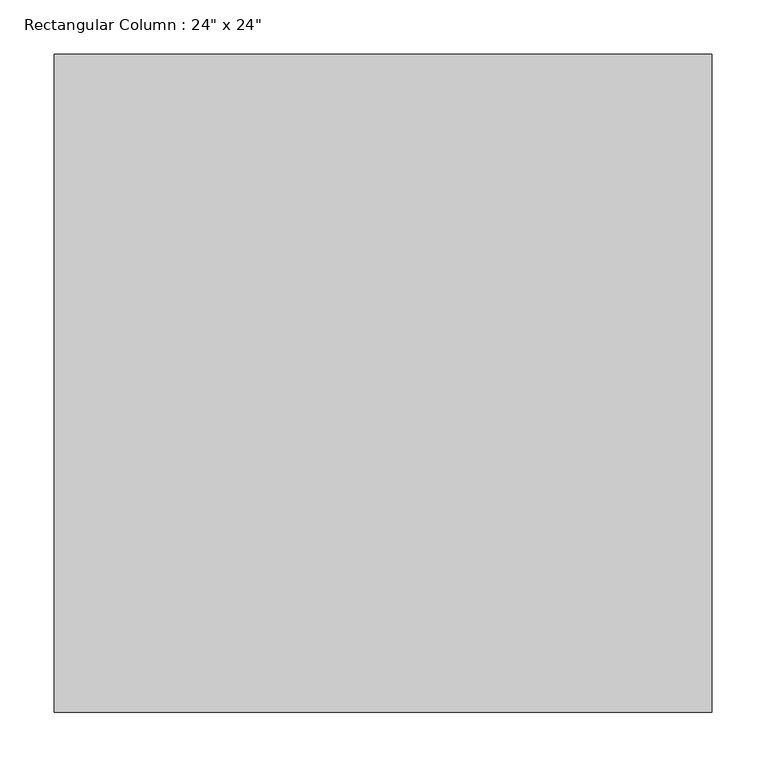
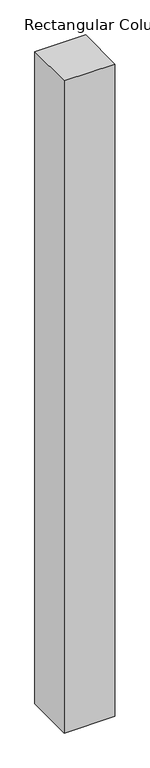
"""IFC4 building model written with IfcOpenShell, lengths in millimetres: column geometry."""

from ifc_helpers import new_model, si_unit, origin, origin_with_axes, place, context, project, spatial, polyline, outline, extrude, source, transform, mapped, element, save


def column_f8a5f9a6(model_context):
    return source(origin(), model_context, "Body", "SweptSolid", [
        extrude(outline(polyline([(304.8, -304.8), (-304.8, -304.8), (-304.8, 304.8), (304.8, 304.8), (304.8, -304.8)])), origin_with_axes(), (0.0, 0.0, 1.0), 8280.4),
    ])


if __name__ == "__main__":
    model = new_model("IFC4")
    model_context = context("Model", 3, world=origin())
    ifc_project = project(units=[si_unit("LENGTHUNIT", "METRE", prefix="MILLI")], contexts=[model_context])
    site = spatial("IfcSite", under=ifc_project)
    building = spatial("IfcBuilding", under=site)
    placement = place(None, origin())
    column_shape = column_f8a5f9a6(model_context)
    element("IfcColumn", 1, ObjectType="Rectangular Column : 24\" x 24\"", at=placement, inside=building, context=model_context, shape_type="MappedRepresentation", body=[
        mapped(column_shape, transform((0.0, 0.0, 0.0), x_axis=(1.0, 0.0, 0.0), y_axis=(0.0, 1.0, 0.0), z_axis=(0.0, 0.0, 1.0))),
    ])
    save(model, "model.ifc")
